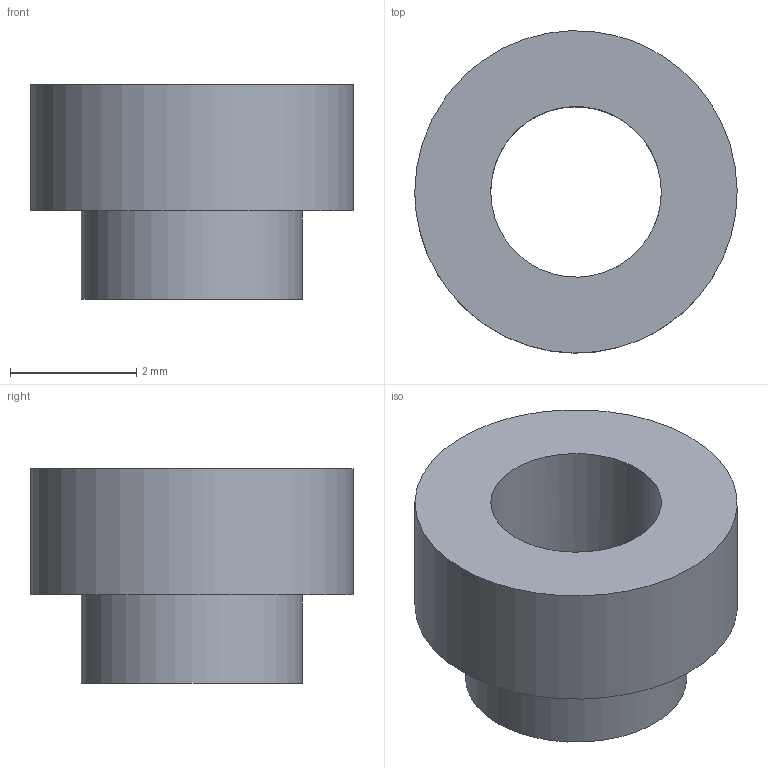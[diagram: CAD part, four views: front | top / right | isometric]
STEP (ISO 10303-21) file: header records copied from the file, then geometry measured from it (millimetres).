
FILE_DESCRIPTION(('FreeCAD Model'),'2;1');
FILE_NAME('Open CASCADE Shape Model','2026-03-20T17:23:04',('Author'),( ''),'Open CASCADE STEP processor 7.8','FreeCAD','Unknown');
FILE_SCHEMA(('AP242_MANAGED_MODEL_BASED_3D_ENGINEERING_MIM_LF. {1 0 10303 442 1 1 4 }'));
Length unit declared in the file: millimetre
Products named in the file (1): 1_transformed
Bounding box: 5.1 x 5.1 x 3.4 mm (x, y, z)
Volume: 35.2 mm3; surface area: 105.9 mm2
Topology: 1 solids, 1 shells, 6 faces, 10 edges, 7 vertices
Faces by surface type: bspline 6
Entity records: 209 total; most frequent: CARTESIAN_POINT 113, ORIENTED_EDGE 20, EDGE_CURVE 10, FACE_BOUND 9, EDGE_LOOP 9, VERTEX_POINT 7, ADVANCED_FACE 6, B_SPLINE_SURFACE_WITH_KNOTS 3
